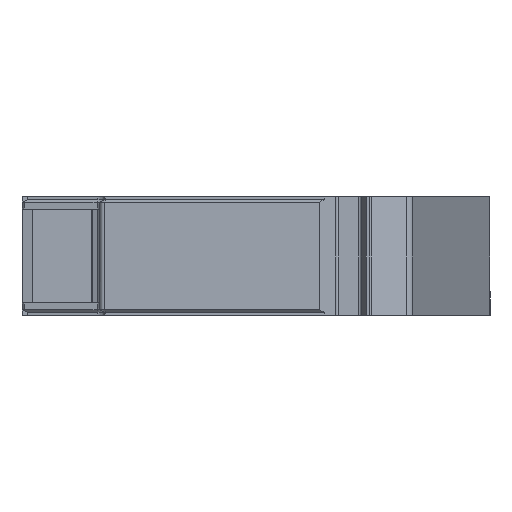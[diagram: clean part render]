
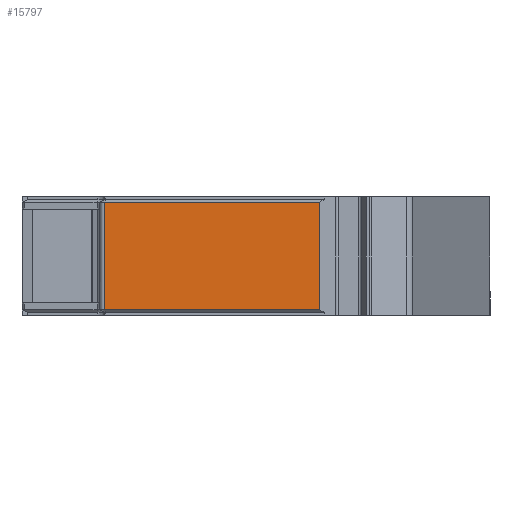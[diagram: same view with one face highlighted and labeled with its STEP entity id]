
A CAD part, left-side view. The second image highlights one B-rep face of the part: STEP entity #15797.
In plain terms, the highlighted planar face has unit normal (-1, 0, 0).
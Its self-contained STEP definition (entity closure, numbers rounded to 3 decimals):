
#1656=DIRECTION('',(0.,0.,-1.));
#1657=VECTOR('',#1656,11.5);
#1658=CARTESIAN_POINT('',(-56.413,11.41,12.05));
#1659=LINE('',#1658,#1657);
#1684=DIRECTION('',(0.,1.,0.));
#1685=VECTOR('',#1684,22.84);
#1686=CARTESIAN_POINT('',(-56.413,11.41,
0.55));
#1687=LINE('',#1686,#1685);
#1796=DIRECTION('',(0.,0.,1.));
#1797=VECTOR('',#1796,11.49);
#1798=CARTESIAN_POINT('',(-56.413,34.35,
0.555));
#1799=LINE('',#1798,#1797);
#1824=CARTESIAN_POINT('',(-56.413,34.35,12.045));
#1825=CARTESIAN_POINT('',(-56.413,34.339,12.046));
#1826=CARTESIAN_POINT('',(-56.413,34.317,12.048));
#1827=CARTESIAN_POINT('',(-56.413,34.283,12.05));
#1828=CARTESIAN_POINT('',(-56.413,34.261,12.05));
#1829=CARTESIAN_POINT('',(-56.413,34.25,12.05));
#7865=DIRECTION('',(0.,1.,0.));
#7866=VECTOR('',#7865,22.84);
#7867=CARTESIAN_POINT('',(-56.413,11.41,12.05));
#7868=LINE('',#7867,#7866);
#7872=CARTESIAN_POINT('',(-56.413,34.35,
0.555));
#7873=CARTESIAN_POINT('',(-56.413,34.339,
0.554));
#7874=CARTESIAN_POINT('',(-56.413,34.317,
0.552));
#7875=CARTESIAN_POINT('',(-56.413,34.283,
0.55));
#7876=CARTESIAN_POINT('',(-56.413,34.261,
0.55));
#7877=CARTESIAN_POINT('',(-56.413,34.25,
0.55));
#8320=CARTESIAN_POINT('',(-56.413,34.25,12.05));
#8321=VERTEX_POINT('',#8320);
#8322=CARTESIAN_POINT('',(-56.413,11.41,12.05));
#8323=VERTEX_POINT('',#8322);
#8324=CARTESIAN_POINT('',(-56.413,34.35,
0.555));
#8325=CARTESIAN_POINT('',(-56.413,34.35,12.045));
#8326=VERTEX_POINT('',#8324);
#8327=VERTEX_POINT('',#8325);
#8328=VERTEX_POINT('',#7877);
#8329=CARTESIAN_POINT('',(-56.413,11.41,
0.55));
#8330=VERTEX_POINT('',#8329);
#15784=CARTESIAN_POINT('',(-56.413,34.35,1.15));
#15785=DIRECTION('',(1.,0.,0.));
#15786=DIRECTION('',(0.,-1.,0.));
#15787=AXIS2_PLACEMENT_3D('',#15784,#15785,#15786);
#15788=PLANE('',#15787);
#15789=ORIENTED_EDGE('',*,*,#10437,.T.);
#15790=ORIENTED_EDGE('',*,*,#10453,.T.);
#15791=ORIENTED_EDGE('',*,*,#10466,.F.);
#15792=ORIENTED_EDGE('',*,*,#10316,.T.);
#15793=ORIENTED_EDGE('',*,*,#10348,.T.);
#15794=ORIENTED_EDGE('',*,*,#10362,.F.);
#15795=EDGE_LOOP('',(#15789,#15790,#15791,#15792,#15793,#15794));
#15796=FACE_OUTER_BOUND('',#15795,.F.);
#15797=ADVANCED_FACE('',(#15796),#15788,.F.);
#1830=B_SPLINE_CURVE_WITH_KNOTS('',3,(#1824,#1825,#1826,#1827,#1828,#1829),
.UNSPECIFIED.,.F.,.F.,(4,1,1,4),(0.,0.333,0.667,1.),
.UNSPECIFIED.);
#7878=B_SPLINE_CURVE_WITH_KNOTS('',3,(#7872,#7873,#7874,#7875,#7876,#7877),
.UNSPECIFIED.,.F.,.F.,(4,1,1,4),(0.,0.333,0.667,1.),
.UNSPECIFIED.);
#10316=EDGE_CURVE('',#8323,#8330,#1659,.T.);
#10348=EDGE_CURVE('',#8330,#8328,#1687,.T.);
#10362=EDGE_CURVE('',#8326,#8328,#7878,.T.);
#10437=EDGE_CURVE('',#8326,#8327,#1799,.T.);
#10453=EDGE_CURVE('',#8327,#8321,#1830,.T.);
#10466=EDGE_CURVE('',#8323,#8321,#7868,.T.);
